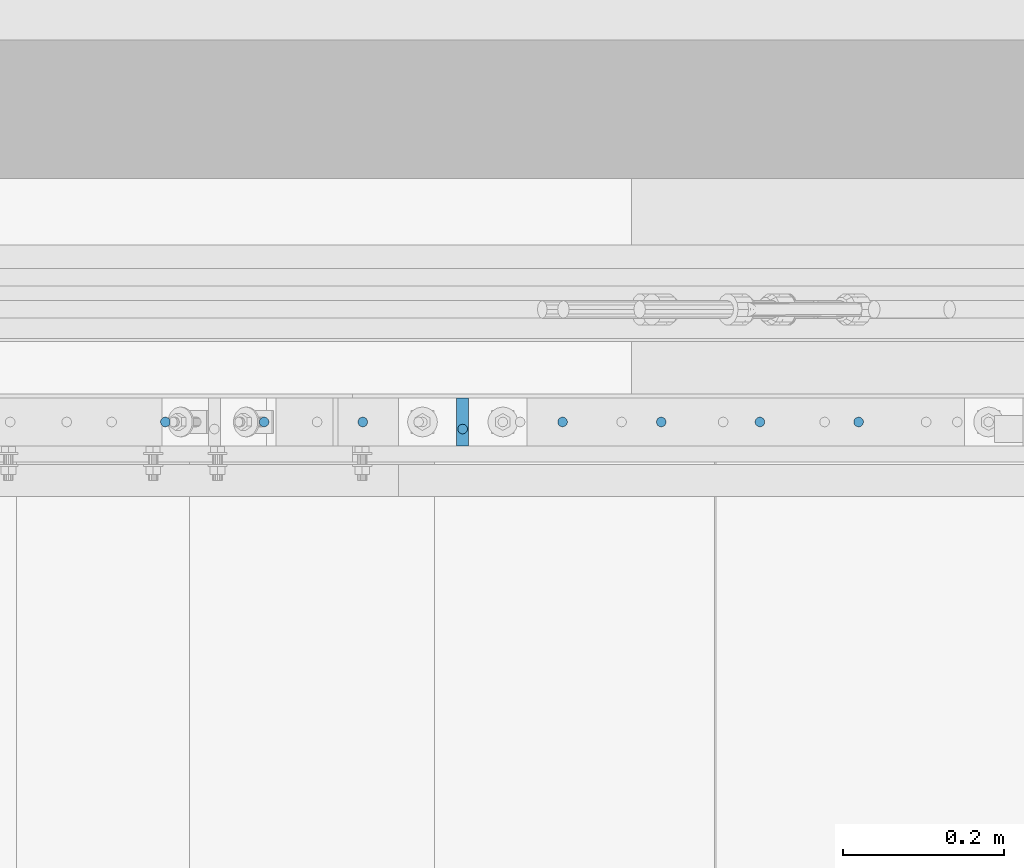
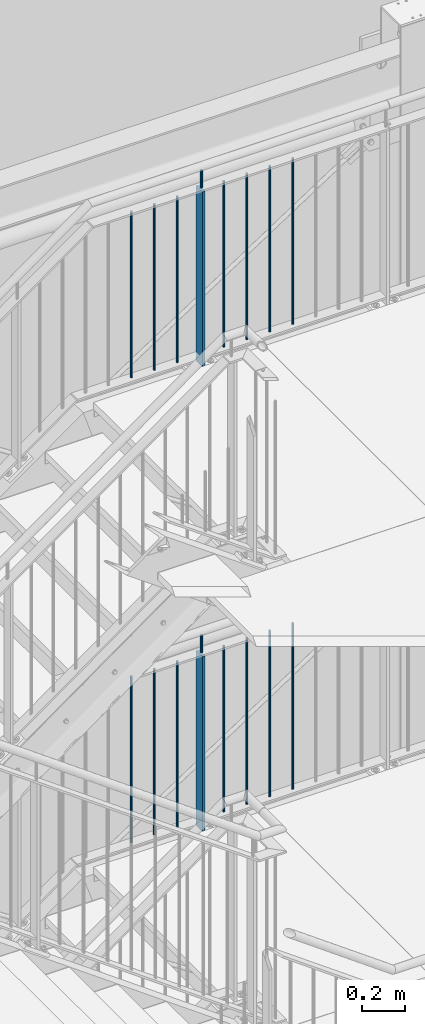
# One storey, part 107 of 825: 18 columns.
"""IFC2X3 building model written with IfcOpenShell, lengths in millimetres."""

from ifc_helpers import new_model, entity, si_unit, converted_unit, frame, origin, origin_with_axes, origin_2d, place, context, project, spatial, rectangle, circle, extrude, clip, halfspace, material, element, save


model = new_model("IFC2X3")

# Units and contexts
model_context = context("Model", 3, precision=1e-09, world=origin_with_axes())
ifc_project = project(units=[si_unit("LENGTHUNIT", "METRE", prefix="MILLI"), si_unit("AREAUNIT", "SQUARE_METRE"), si_unit("VOLUMEUNIT", "CUBIC_METRE"), converted_unit("PLANEANGLEUNIT", "DEGREE", entity("IfcPlaneAngleMeasure", 0.01745329), si_unit("PLANEANGLEUNIT", "RADIAN"), dimensions=[0, 0, 0, 0, 0, 0, 0])], contexts=[model_context])

# Site, building, storey
site_placement = place(None, origin_with_axes())
site = spatial("IfcSite", under=ifc_project, at=site_placement, Name="Cnopf'sche Kinderklinik", CompositionType="ELEMENT")
building_placement = place(site_placement, origin_with_axes())
building = spatial("IfcBuilding", under=site, at=building_placement, Name="Struktur 1", CompositionType="ELEMENT")
storey_placement = place(building_placement, origin_with_axes())
storey = spatial("IfcBuildingStorey", under=building, at=storey_placement, Name="Default Storey", CompositionType="ELEMENT", Elevation=0.0)

# Columns
ifc_material = material(Name="S235JR")
column_1_placement = place(None, frame((7656.713831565, 7356.736971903, 14936.223292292), z_axis=(0.0, 0.0, 1.0), x_axis=(1.0, 0.0, 0.0)))
element("IfcColumn", 1, at=column_1_placement, inside=storey, material=ifc_material, Name="Railing_Post_Landing#3", ObjectType="Railing_Post_Landing#3", context=model_context, shape_type="Clipping", body=[
    clip(clip(extrude(rectangle(XDim=15.0, YDim=60.0, at=origin_2d()), origin(), (0.0, 0.0, -1.0), 1070.646584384), halfspace(frame((-7656.713831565, -7356.736971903, -1019.722292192), z_axis=(0.0, 0.0, 1.0), x_axis=(1.0, 0.0, 0.0)), True)), halfspace(frame((-7656.713831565, -7356.736971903, -30.924292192), z_axis=(0.0, 0.0, -1.0), x_axis=(-1.0, 0.0, 0.0)), True)),
])
column_2_placement = place(None, frame((7286.963783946, 7356.736971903, 14918.785281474), z_axis=(0.0, 0.0, 1.0), x_axis=(1.0, 0.0, 0.0)))
element("IfcColumn", 2, at=column_2_placement, inside=storey, material=ifc_material, Name="Railing_Picket_Landing#18", ObjectType="Railing_Picket_Landing#18", context=model_context, shape_type="Clipping", body=[
    clip(clip(extrude(circle(Radius=6.0, at=origin_2d()), origin(), (0.0, 0.0, -1.0), 965.770562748), halfspace(frame((-7286.963783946, -7356.736971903, -13.486281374), z_axis=(0.0, 0.0, -1.0), x_axis=(-1.0, 0.0, 0.0)), True)), halfspace(frame((-7286.963783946, -7356.736971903, -952.284281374), z_axis=(0.0, 0.0, 1.0), x_axis=(1.0, 0.0, 0.0)), True)),
])
column_3_placement = place(None, frame((7409.713807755, 7356.736971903, 14918.785281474), z_axis=(0.0, 0.0, 1.0), x_axis=(1.0, 0.0, 0.0)))
element("IfcColumn", 3, at=column_3_placement, inside=storey, material=ifc_material, Name="Railing_Picket_Landing#19", ObjectType="Railing_Picket_Landing#19", context=model_context, shape_type="Clipping", body=[
    clip(clip(extrude(circle(Radius=6.0, at=origin_2d()), origin(), (0.0, 0.0, -1.0), 965.770562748), halfspace(frame((-7409.713807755, -7356.736971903, -13.486281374), z_axis=(0.0, 0.0, -1.0), x_axis=(-1.0, 0.0, 0.0)), True)), halfspace(frame((-7409.713807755, -7356.736971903, -952.284281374), z_axis=(0.0, 0.0, 1.0), x_axis=(1.0, 0.0, 0.0)), True)),
])
column_4_placement = place(None, frame((7532.463831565, 7356.736971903, 14918.785281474), z_axis=(0.0, 0.0, 1.0), x_axis=(1.0, 0.0, 0.0)))
element("IfcColumn", 4, at=column_4_placement, inside=storey, material=ifc_material, Name="Railing_Picket_Landing#20", ObjectType="Railing_Picket_Landing#20", context=model_context, shape_type="Clipping", body=[
    clip(clip(extrude(circle(Radius=6.0, at=origin_2d()), origin(), (0.0, 0.0, -1.0), 965.770562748), halfspace(frame((-7532.463831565, -7356.736971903, -13.486281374), z_axis=(0.0, 0.0, -1.0), x_axis=(-1.0, 0.0, 0.0)), True)), halfspace(frame((-7532.463831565, -7356.736971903, -952.284281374), z_axis=(0.0, 0.0, 1.0), x_axis=(1.0, 0.0, 0.0)), True)),
])
column_5_placement = place(None, frame((7780.963831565, 7356.736971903, 14918.785281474), z_axis=(0.0, 0.0, 1.0), x_axis=(1.0, 0.0, 0.0)))
element("IfcColumn", 5, at=column_5_placement, inside=storey, material=ifc_material, Name="Railing_Picket_Landing#21", ObjectType="Railing_Picket_Landing#21", context=model_context, shape_type="Clipping", body=[
    clip(clip(extrude(circle(Radius=6.0, at=origin_2d()), origin(), (0.0, 0.0, -1.0), 965.770562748), halfspace(frame((-7780.963831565, -7356.736971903, -13.486281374), z_axis=(0.0, 0.0, -1.0), x_axis=(-1.0, 0.0, 0.0)), True)), halfspace(frame((-7780.963831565, -7356.736971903, -952.284281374), z_axis=(0.0, 0.0, 1.0), x_axis=(1.0, 0.0, 0.0)), True)),
])
column_6_placement = place(None, frame((7903.713855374, 7356.736971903, 14918.785281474), z_axis=(0.0, 0.0, 1.0), x_axis=(1.0, 0.0, 0.0)))
element("IfcColumn", 6, at=column_6_placement, inside=storey, material=ifc_material, Name="Railing_Picket_Landing#22", ObjectType="Railing_Picket_Landing#22", context=model_context, shape_type="Clipping", body=[
    clip(clip(extrude(circle(Radius=6.0, at=origin_2d()), origin(), (0.0, 0.0, -1.0), 965.770562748), halfspace(frame((-7903.713855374, -7356.736971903, -13.486281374), z_axis=(0.0, 0.0, -1.0), x_axis=(-1.0, 0.0, 0.0)), True)), halfspace(frame((-7903.713855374, -7356.736971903, -952.284281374), z_axis=(0.0, 0.0, 1.0), x_axis=(1.0, 0.0, 0.0)), True)),
])
column_7_placement = place(None, frame((8026.463879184, 7356.736971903, 14918.785281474), z_axis=(0.0, 0.0, 1.0), x_axis=(1.0, 0.0, 0.0)))
element("IfcColumn", 7, at=column_7_placement, inside=storey, material=ifc_material, Name="Railing_Picket_Landing#23", ObjectType="Railing_Picket_Landing#23", context=model_context, shape_type="Clipping", body=[
    clip(clip(extrude(circle(Radius=6.0, at=origin_2d()), origin(), (0.0, 0.0, -1.0), 965.770562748), halfspace(frame((-8026.463879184, -7356.736971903, -13.486281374), z_axis=(0.0, 0.0, -1.0), x_axis=(-1.0, 0.0, 0.0)), True)), halfspace(frame((-8026.463879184, -7356.736971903, -952.284281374), z_axis=(0.0, 0.0, 1.0), x_axis=(1.0, 0.0, 0.0)), True)),
])
column_8_placement = place(None, frame((8149.213902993, 7356.736971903, 14918.785281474), z_axis=(0.0, 0.0, 1.0), x_axis=(1.0, 0.0, 0.0)))
element("IfcColumn", 8, at=column_8_placement, inside=storey, material=ifc_material, Name="Railing_Picket_Landing#24", ObjectType="Railing_Picket_Landing#24", context=model_context, shape_type="Clipping", body=[
    clip(clip(extrude(circle(Radius=6.0, at=origin_2d()), origin(), (0.0, 0.0, -1.0), 965.770562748), halfspace(frame((-8149.213902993, -7356.736971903, -13.486281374), z_axis=(0.0, 0.0, -1.0), x_axis=(-1.0, 0.0, 0.0)), True)), halfspace(frame((-8149.213902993, -7356.736971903, -952.284281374), z_axis=(0.0, 0.0, 1.0), x_axis=(1.0, 0.0, 0.0)), True)),
])
column_9_placement = place(None, frame((7656.713831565, 7347.936971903, 15023.785281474), z_axis=(0.0, 0.0, 1.0), x_axis=(0.0, -1.0, 0.0)))
element("IfcColumn", 9, at=column_9_placement, inside=storey, material=ifc_material, Name="Bar#3", ObjectType="Bar#3", context=model_context, shape_type="Clipping", body=[
    clip(clip(extrude(circle(Radius=6.0, at=origin_2d()), origin(), (0.0, 0.0, -1.0), 116.970562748), halfspace(frame((7347.936971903, -7656.713831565, -8.486281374), z_axis=(0.0, 0.0, -1.0), x_axis=(0.0, -1.0, 0.0)), True)), halfspace(frame((7347.936971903, -7656.713831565, -108.484281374), z_axis=(0.0, 0.0, 1.0), x_axis=(0.0, 1.0, 0.0)), True)),
])
column_10_placement = place(None, frame((7656.713831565, 7356.736971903, 17563.723292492), z_axis=(0.0, 0.0, 1.0), x_axis=(1.0, 0.0, 0.0)))
element("IfcColumn", 10, at=column_10_placement, inside=storey, material=ifc_material, Name="Railing_Post_Landing#3", ObjectType="Railing_Post_Landing#3", context=model_context, shape_type="Clipping", body=[
    clip(clip(extrude(rectangle(XDim=15.0, YDim=60.0, at=origin_2d()), origin(), (0.0, 0.0, -1.0), 1070.646584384), halfspace(frame((-7656.713831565, -7356.736971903, -1019.722292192), z_axis=(0.0, 0.0, 1.0), x_axis=(1.0, 0.0, 0.0)), True)), halfspace(frame((-7656.713831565, -7356.736971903, -30.924292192), z_axis=(0.0, 0.0, -1.0), x_axis=(-1.0, 0.0, 0.0)), True)),
])
column_11_placement = place(None, frame((7286.963783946, 7356.736971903, 17546.285281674), z_axis=(0.0, 0.0, 1.0), x_axis=(1.0, 0.0, 0.0)))
element("IfcColumn", 11, at=column_11_placement, inside=storey, material=ifc_material, Name="Railing_Picket_Landing#18", ObjectType="Railing_Picket_Landing#18", context=model_context, shape_type="Clipping", body=[
    clip(clip(extrude(circle(Radius=6.0, at=origin_2d()), origin(), (0.0, 0.0, -1.0), 965.770562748), halfspace(frame((-7286.963783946, -7356.736971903, -13.486281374), z_axis=(0.0, 0.0, -1.0), x_axis=(-1.0, 0.0, 0.0)), True)), halfspace(frame((-7286.963783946, -7356.736971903, -952.284281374), z_axis=(0.0, 0.0, 1.0), x_axis=(1.0, 0.0, 0.0)), True)),
])
column_12_placement = place(None, frame((7409.713807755, 7356.736971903, 17546.285281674), z_axis=(0.0, 0.0, 1.0), x_axis=(1.0, 0.0, 0.0)))
element("IfcColumn", 12, at=column_12_placement, inside=storey, material=ifc_material, Name="Railing_Picket_Landing#19", ObjectType="Railing_Picket_Landing#19", context=model_context, shape_type="Clipping", body=[
    clip(clip(extrude(circle(Radius=6.0, at=origin_2d()), origin(), (0.0, 0.0, -1.0), 965.770562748), halfspace(frame((-7409.713807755, -7356.736971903, -13.486281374), z_axis=(0.0, 0.0, -1.0), x_axis=(-1.0, 0.0, 0.0)), True)), halfspace(frame((-7409.713807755, -7356.736971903, -952.284281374), z_axis=(0.0, 0.0, 1.0), x_axis=(1.0, 0.0, 0.0)), True)),
])
column_13_placement = place(None, frame((7532.463831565, 7356.736971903, 17546.285281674), z_axis=(0.0, 0.0, 1.0), x_axis=(1.0, 0.0, 0.0)))
element("IfcColumn", 13, at=column_13_placement, inside=storey, material=ifc_material, Name="Railing_Picket_Landing#20", ObjectType="Railing_Picket_Landing#20", context=model_context, shape_type="Clipping", body=[
    clip(clip(extrude(circle(Radius=6.0, at=origin_2d()), origin(), (0.0, 0.0, -1.0), 965.770562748), halfspace(frame((-7532.463831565, -7356.736971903, -13.486281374), z_axis=(0.0, 0.0, -1.0), x_axis=(-1.0, 0.0, 0.0)), True)), halfspace(frame((-7532.463831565, -7356.736971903, -952.284281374), z_axis=(0.0, 0.0, 1.0), x_axis=(1.0, 0.0, 0.0)), True)),
])
column_14_placement = place(None, frame((7780.963831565, 7356.736971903, 17546.285281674), z_axis=(0.0, 0.0, 1.0), x_axis=(1.0, 0.0, 0.0)))
element("IfcColumn", 14, at=column_14_placement, inside=storey, material=ifc_material, Name="Railing_Picket_Landing#21", ObjectType="Railing_Picket_Landing#21", context=model_context, shape_type="Clipping", body=[
    clip(clip(extrude(circle(Radius=6.0, at=origin_2d()), origin(), (0.0, 0.0, -1.0), 965.770562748), halfspace(frame((-7780.963831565, -7356.736971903, -13.486281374), z_axis=(0.0, 0.0, -1.0), x_axis=(-1.0, 0.0, 0.0)), True)), halfspace(frame((-7780.963831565, -7356.736971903, -952.284281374), z_axis=(0.0, 0.0, 1.0), x_axis=(1.0, 0.0, 0.0)), True)),
])
column_15_placement = place(None, frame((7903.713855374, 7356.736971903, 17546.285281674), z_axis=(0.0, 0.0, 1.0), x_axis=(1.0, 0.0, 0.0)))
element("IfcColumn", 15, at=column_15_placement, inside=storey, material=ifc_material, Name="Railing_Picket_Landing#22", ObjectType="Railing_Picket_Landing#22", context=model_context, shape_type="Clipping", body=[
    clip(clip(extrude(circle(Radius=6.0, at=origin_2d()), origin(), (0.0, 0.0, -1.0), 965.770562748), halfspace(frame((-7903.713855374, -7356.736971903, -13.486281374), z_axis=(0.0, 0.0, -1.0), x_axis=(-1.0, 0.0, 0.0)), True)), halfspace(frame((-7903.713855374, -7356.736971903, -952.284281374), z_axis=(0.0, 0.0, 1.0), x_axis=(1.0, 0.0, 0.0)), True)),
])
column_16_placement = place(None, frame((8026.463879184, 7356.736971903, 17546.285281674), z_axis=(0.0, 0.0, 1.0), x_axis=(1.0, 0.0, 0.0)))
element("IfcColumn", 16, at=column_16_placement, inside=storey, material=ifc_material, Name="Railing_Picket_Landing#23", ObjectType="Railing_Picket_Landing#23", context=model_context, shape_type="Clipping", body=[
    clip(clip(extrude(circle(Radius=6.0, at=origin_2d()), origin(), (0.0, 0.0, -1.0), 965.770562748), halfspace(frame((-8026.463879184, -7356.736971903, -13.486281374), z_axis=(0.0, 0.0, -1.0), x_axis=(-1.0, 0.0, 0.0)), True)), halfspace(frame((-8026.463879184, -7356.736971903, -952.284281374), z_axis=(0.0, 0.0, 1.0), x_axis=(1.0, 0.0, 0.0)), True)),
])
column_17_placement = place(None, frame((8149.213902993, 7356.736971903, 17546.285281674), z_axis=(0.0, 0.0, 1.0), x_axis=(1.0, 0.0, 0.0)))
element("IfcColumn", 17, at=column_17_placement, inside=storey, material=ifc_material, Name="Railing_Picket_Landing#24", ObjectType="Railing_Picket_Landing#24", context=model_context, shape_type="Clipping", body=[
    clip(clip(extrude(circle(Radius=6.0, at=origin_2d()), origin(), (0.0, 0.0, -1.0), 965.770562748), halfspace(frame((-8149.213902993, -7356.736971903, -13.486281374), z_axis=(0.0, 0.0, -1.0), x_axis=(-1.0, 0.0, 0.0)), True)), halfspace(frame((-8149.213902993, -7356.736971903, -952.284281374), z_axis=(0.0, 0.0, 1.0), x_axis=(1.0, 0.0, 0.0)), True)),
])
column_18_placement = place(None, frame((7656.713831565, 7347.936971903, 17651.285281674), z_axis=(0.0, 0.0, 1.0), x_axis=(0.0, -1.0, 0.0)))
element("IfcColumn", 18, at=column_18_placement, inside=storey, material=ifc_material, Name="Bar#3", ObjectType="Bar#3", context=model_context, shape_type="Clipping", body=[
    clip(clip(extrude(circle(Radius=6.0, at=origin_2d()), origin(), (0.0, 0.0, -1.0), 116.970562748), halfspace(frame((7347.936971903, -7656.713831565, -8.486281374), z_axis=(0.0, 0.0, -1.0), x_axis=(0.0, -1.0, 0.0)), True)), halfspace(frame((7347.936971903, -7656.713831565, -108.484281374), z_axis=(0.0, 0.0, 1.0), x_axis=(0.0, 1.0, 0.0)), True)),
])

save(model, "model.ifc")
